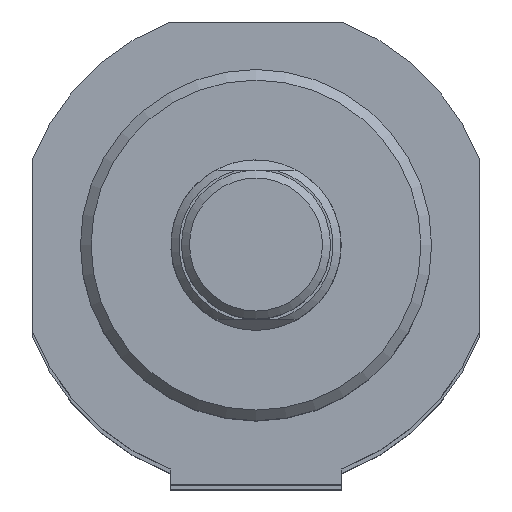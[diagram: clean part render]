
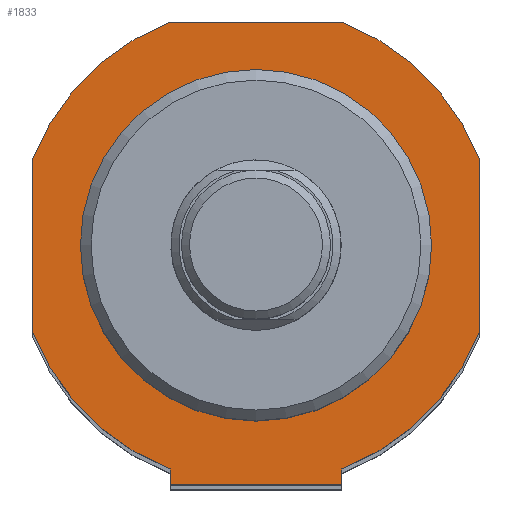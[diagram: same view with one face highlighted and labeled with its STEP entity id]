
A CAD part, top view. The second image highlights one B-rep face of the part: STEP entity #1833.
In plain terms, the highlighted planar face has unit normal (0, 0, 1).
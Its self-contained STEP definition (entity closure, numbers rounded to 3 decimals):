
#898=CARTESIAN_POINT('',(8.078,-22.5,299.));
#899=VERTEX_POINT('',#898);
#900=CARTESIAN_POINT('',(-8.078,-22.5,299.));
#901=VERTEX_POINT('',#900);
#902=CARTESIAN_POINT('',(8.078,-22.5,299.));
#903=DIRECTION('',(-1.0,0.0,0.0));
#904=VECTOR('',#903,16.155);
#905=LINE('',#902,#904);
#906=EDGE_CURVE('',#899,#901,#905,.T.);
#1054=CARTESIAN_POINT('',(-8.078,-21.,299.));
#1055=VERTEX_POINT('',#1054);
#1069=CARTESIAN_POINT('',(-8.078,-21.,299.));
#1070=DIRECTION('',(0.0,-1.0,0.0));
#1071=VECTOR('',#1070,1.5);
#1072=LINE('',#1069,#1071);
#1073=EDGE_CURVE('',#1055,#901,#1072,.T.);
#1085=CARTESIAN_POINT('',(8.078,-21.,299.));
#1086=VERTEX_POINT('',#1085);
#1093=CARTESIAN_POINT('',(8.078,-21.,299.));
#1094=DIRECTION('',(0.0,-1.0,0.0));
#1095=VECTOR('',#1094,1.5);
#1096=LINE('',#1093,#1095);
#1097=EDGE_CURVE('',#1086,#899,#1096,.T.);
#1561=CARTESIAN_POINT('',(16.5,0.,299.));
#1562=VERTEX_POINT('',#1561);
#1563=CARTESIAN_POINT('',(0.,0.,299.));
#1564=DIRECTION('',(0.0,0.0,-1.0));
#1565=DIRECTION('',(-1.0,0.0,0.0));
#1566=AXIS2_PLACEMENT_3D('',#1563,#1564,#1565);
#1567=CIRCLE('',#1566,16.5);
#1568=EDGE_CURVE('',#1562,#1562,#1567,.T.);
#1653=CARTESIAN_POINT('',(-8.078,21.,299.));
#1654=VERTEX_POINT('',#1653);
#1655=CARTESIAN_POINT('',(8.078,21.,299.));
#1656=VERTEX_POINT('',#1655);
#1657=CARTESIAN_POINT('',(-8.078,21.,299.));
#1658=DIRECTION('',(1.0,0.0,0.0));
#1659=VECTOR('',#1658,16.155);
#1660=LINE('',#1657,#1659);
#1661=EDGE_CURVE('',#1654,#1656,#1660,.T.);
#1684=CARTESIAN_POINT('',(21.,8.078,299.));
#1685=VERTEX_POINT('',#1684);
#1686=CARTESIAN_POINT('',(0.,0.,299.0));
#1687=DIRECTION('',(0.,0.,-1.0));
#1688=DIRECTION('',(0.933,0.359,0.));
#1689=AXIS2_PLACEMENT_3D('',#1686,#1687,#1688);
#1690=CIRCLE('',#1689,22.5);
#1691=EDGE_CURVE('',#1656,#1685,#1690,.T.);
#1709=CARTESIAN_POINT('',(21.,-8.078,299.));
#1710=VERTEX_POINT('',#1709);
#1711=CARTESIAN_POINT('',(21.,8.078,299.));
#1712=DIRECTION('',(0.0,-1.0,0.0));
#1713=VECTOR('',#1712,16.155);
#1714=LINE('',#1711,#1713);
#1715=EDGE_CURVE('',#1685,#1710,#1714,.T.);
#1733=CARTESIAN_POINT('',(0.,0.,299.0));
#1734=DIRECTION('',(0.,0.,-1.));
#1735=DIRECTION('',(0.359,-0.933,0.));
#1736=AXIS2_PLACEMENT_3D('',#1733,#1734,#1735);
#1737=CIRCLE('',#1736,22.5);
#1738=EDGE_CURVE('',#1710,#1086,#1737,.T.);
#1751=CARTESIAN_POINT('',(-21.,-8.078,299.));
#1752=VERTEX_POINT('',#1751);
#1753=CARTESIAN_POINT('',(0.,0.,299.0));
#1754=DIRECTION('',(0.,0.,-1.0));
#1755=DIRECTION('',(-0.933,-0.359,0.));
#1756=AXIS2_PLACEMENT_3D('',#1753,#1754,#1755);
#1757=CIRCLE('',#1756,22.5);
#1758=EDGE_CURVE('',#1055,#1752,#1757,.T.);
#1776=CARTESIAN_POINT('',(-21.,8.078,299.));
#1777=VERTEX_POINT('',#1776);
#1778=CARTESIAN_POINT('',(-21.,-8.078,299.));
#1779=DIRECTION('',(0.0,1.0,0.0));
#1780=VECTOR('',#1779,16.155);
#1781=LINE('',#1778,#1780);
#1782=EDGE_CURVE('',#1752,#1777,#1781,.T.);
#1800=CARTESIAN_POINT('',(0.,0.,299.0));
#1801=DIRECTION('',(0.,0.,-1.));
#1802=DIRECTION('',(-0.359,0.933,0.));
#1803=AXIS2_PLACEMENT_3D('',#1800,#1801,#1802);
#1804=CIRCLE('',#1803,22.5);
#1805=EDGE_CURVE('',#1777,#1654,#1804,.T.);
#1813=CARTESIAN_POINT('',(0.,0.0,299.));
#1814=DIRECTION('',(0.0,0.0,1.0));
#1815=DIRECTION('',(1.0,0.0,0.0));
#1816=AXIS2_PLACEMENT_3D('',#1813,#1814,#1815);
#1817=PLANE('',#1816);
#1818=ORIENTED_EDGE('',*,*,#1661,.F.);
#1819=ORIENTED_EDGE('',*,*,#1805,.F.);
#1820=ORIENTED_EDGE('',*,*,#1782,.F.);
#1821=ORIENTED_EDGE('',*,*,#1758,.F.);
#1822=ORIENTED_EDGE('',*,*,#1073,.T.);
#1823=ORIENTED_EDGE('',*,*,#906,.F.);
#1824=ORIENTED_EDGE('',*,*,#1097,.F.);
#1825=ORIENTED_EDGE('',*,*,#1738,.F.);
#1826=ORIENTED_EDGE('',*,*,#1715,.F.);
#1827=ORIENTED_EDGE('',*,*,#1691,.F.);
#1828=EDGE_LOOP('',(#1818,#1819,#1820,#1821,#1822,#1823,#1824,#1825,#1826,#1827));
#1829=FACE_OUTER_BOUND('',#1828,.T.);
#1830=ORIENTED_EDGE('',*,*,#1568,.T.);
#1831=EDGE_LOOP('',(#1830));
#1832=FACE_BOUND('',#1831,.T.);
#1833=ADVANCED_FACE('',(#1829,#1832),#1817,.T.);
